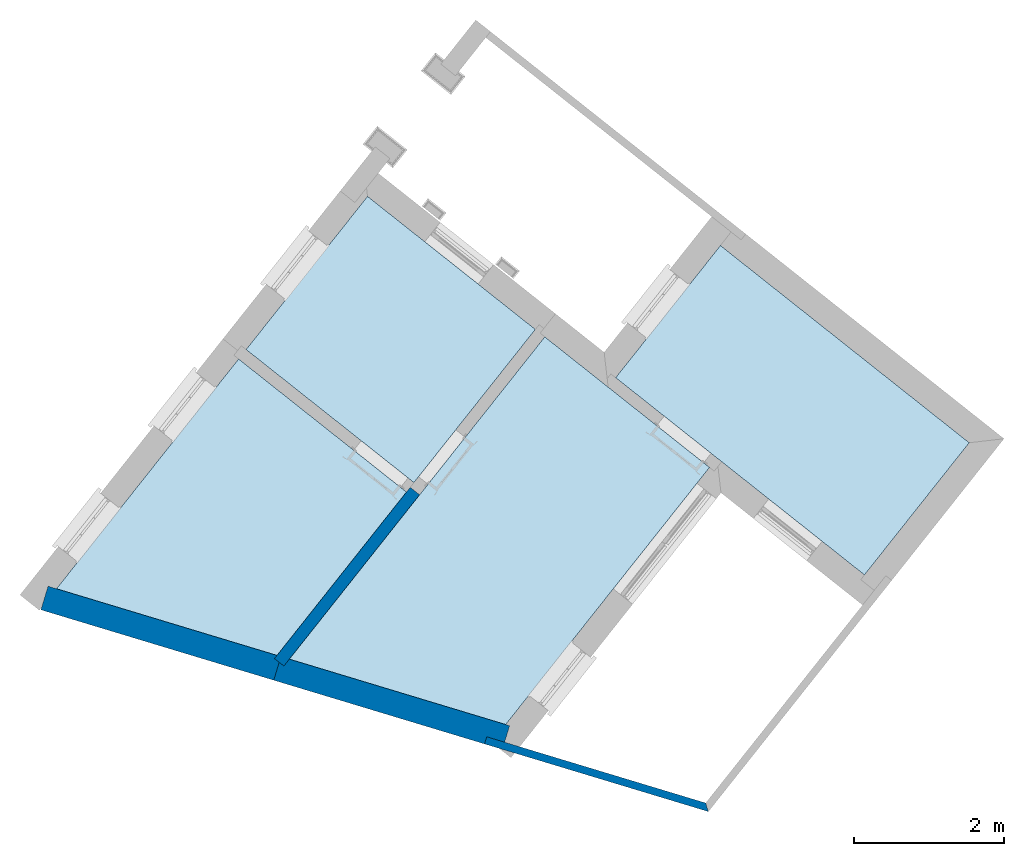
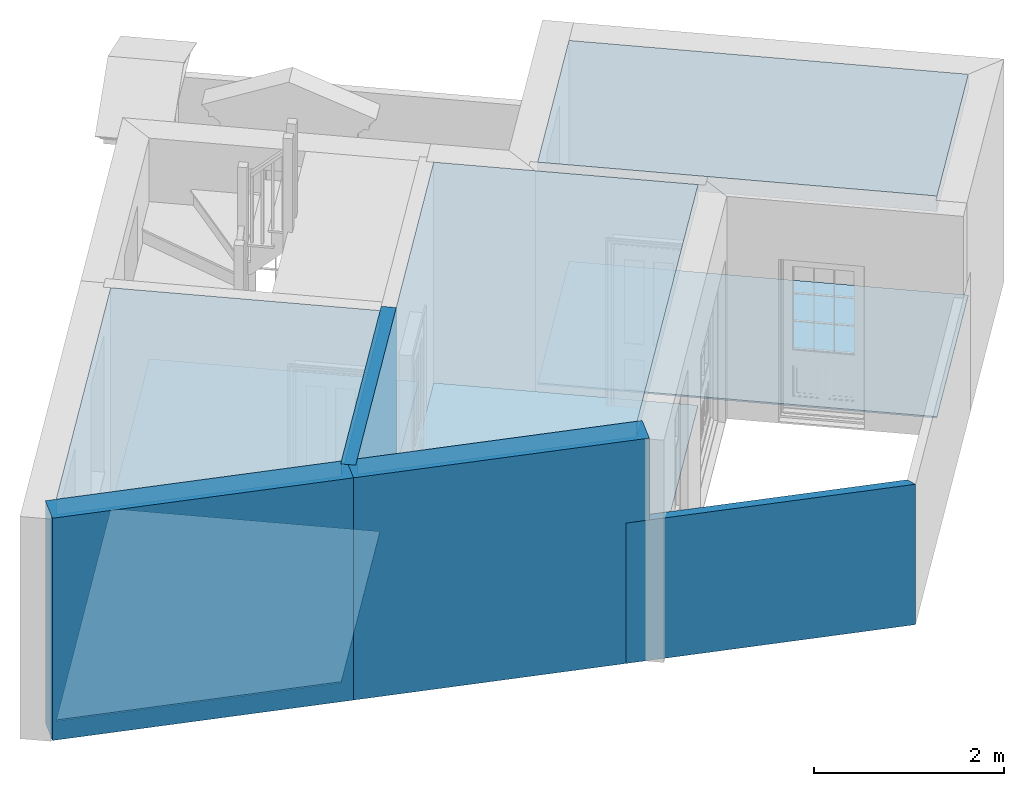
# One storey, part 1 of 8: 7 slabs, 4 walls.
"""IFC4 building model written with IfcOpenShell, lengths in metres."""

import ifcopenshell
import ifcopenshell.guid

model = None  # the IFC model being written
_history = None  # IfcOwnerHistory: only IFC2X3 demands one
_inside = {}  # id of a spatial element -> (the spatial element, [elements in it])
_under = {}  # id of a project, library or spatial element -> (it, [spatial elements below it])
_declared = {}  # id of a project -> (the project, [libraries it declares])
_typed = {}  # id of a type object -> (the type object, [elements of that type])
_made_of = {}  # id of a material, layer set ... -> (it, [elements and type objects made of it])


def new_model(schema):
    """Start an empty IFC model of exactly this schema.

    Asked for "IFC4X3", IfcOpenShell would pick the latest addendum, in which some entities
    have other attributes; the version numbers below select the first issue.
    IFC2X3 requires an IfcOwnerHistory on every rooted entity: one is made here for all.
    """
    global model, _history
    if schema == "IFC4X3":
        model = ifcopenshell.file(schema_version=(4, 3, 0, 0))
    else:
        model = ifcopenshell.file(schema=schema)
    _inside.clear()
    _under.clear()
    _declared.clear()
    _typed.clear()
    _made_of.clear()
    _history = None
    if model.schema == "IFC2X3":
        org = make("IfcOrganization", Name="unknown")
        user = make(
            "IfcPersonAndOrganization",
            ThePerson=make("IfcPerson", FamilyName="unknown"),
            TheOrganization=org,
        )
        app = make(
            "IfcApplication",
            ApplicationDeveloper=org,
            Version="unknown",
            ApplicationFullName="unknown",
            ApplicationIdentifier="unknown",
        )
        _history = make(
            "IfcOwnerHistory",
            OwningUser=user,
            OwningApplication=app,
            ChangeAction="ADDED",
            CreationDate=0,
        )
    return model


def make(cls, **values):
    """One entity of the class cls with the attributes given. An attribute that is None is left unset."""
    return model.create_entity(
        cls, **{name: value for name, value in values.items() if value is not None}
    )


def rooted(cls, **values):
    """An entity with a GlobalId (a new one), such as an element, a storey or a relation."""
    return make(cls, GlobalId=ifcopenshell.guid.new(), OwnerHistory=_history, **values)


def si_unit(unit_type, name, prefix=None):
    """IfcSIUnit, for example si_unit("LENGTHUNIT", "METRE", prefix="MILLI")."""
    return make("IfcSIUnit", UnitType=unit_type, Prefix=prefix, Name=name)


def assignment(units):
    """IfcUnitAssignment: the units of a project."""
    return None if units is None else make("IfcUnitAssignment", Units=units)


def point(xyz):
    """IfcCartesianPoint."""
    return None if xyz is None else make("IfcCartesianPoint", Coordinates=xyz)


def direction(xyz):
    """IfcDirection."""
    return None if xyz is None else make("IfcDirection", DirectionRatios=xyz)


def frame(location, z_axis=None, x_axis=None):
    """IfcAxis2Placement3D, a coordinate frame: its origin and axes. An axis left out is left unset."""
    return make(
        "IfcAxis2Placement3D",
        Location=point(location),
        Axis=direction(z_axis),
        RefDirection=direction(x_axis),
    )


def origin_with_axes():
    """The frame at (0, 0, 0) with the z axis (0, 0, 1) and the x axis (1, 0, 0) written out."""
    return frame((0.0, 0.0, 0.0), z_axis=(0.0, 0.0, 1.0), x_axis=(1.0, 0.0, 0.0))


def place(relative_to, where):
    """IfcLocalPlacement: puts the frame where relative to a parent placement (None: the world)."""
    return make(
        "IfcLocalPlacement", PlacementRelTo=relative_to, RelativePlacement=where
    )


def context(
    kind, dimensions, precision=None, world=None, true_north=None, identifier=None
):
    """IfcGeometricRepresentationContext, for example the 3D "Model" context."""
    return make(
        "IfcGeometricRepresentationContext",
        ContextIdentifier=identifier,
        ContextType=kind,
        CoordinateSpaceDimension=dimensions,
        Precision=precision,
        WorldCoordinateSystem=world,
        TrueNorth=true_north,
    )


def subcontext(parent, identifier, kind, view, scale=None):
    """IfcGeometricRepresentationSubContext, for example "Body" below "Model"."""
    return make(
        "IfcGeometricRepresentationSubContext",
        ContextIdentifier=identifier,
        ContextType=kind,
        ParentContext=parent,
        TargetScale=scale,
        TargetView=view,
    )


def project(units=None, contexts=None):
    """IfcProject with its units and contexts."""
    return rooted(
        "IfcProject",
        Name="project",
        RepresentationContexts=contexts,
        UnitsInContext=assignment(units),
    )


def spatial(cls, under=None, at=None, **own):
    """A site, building, storey or space (cls), placed at a placement, below another one or the project."""
    s = rooted(cls, ObjectPlacement=at, **own)
    if under is not None:
        _under.setdefault(under.id(), (under, []))[1].append(s)
    return s


def polyline(points):
    """IfcPolyline through the points."""
    return make("IfcPolyline", Points=[point(p) for p in points])


def outline(outer, holes=None, kind="AREA"):
    """IfcArbitraryClosedProfileDef: a profile drawn as a closed curve; with holes, ...WithVoids."""
    if holes is None:
        return make("IfcArbitraryClosedProfileDef", ProfileType=kind, OuterCurve=outer)
    return make(
        "IfcArbitraryProfileDefWithVoids",
        ProfileType=kind,
        OuterCurve=outer,
        InnerCurves=holes,
    )


def extrude(swept, where, along, depth):
    """IfcExtrudedAreaSolid: the profile swept, set in the frame where, extruded along a direction by depth."""
    return make(
        "IfcExtrudedAreaSolid",
        SweptArea=swept,
        Position=where,
        ExtrudedDirection=direction(along),
        Depth=depth,
    )


def shape(context_of_items, identifier, shape_type, items):
    """IfcShapeRepresentation: the items that make up one representation, for example the "Body"."""
    return make(
        "IfcShapeRepresentation",
        ContextOfItems=context_of_items,
        RepresentationIdentifier=identifier,
        RepresentationType=shape_type,
        Items=items,
    )


def material(Name=None, Category=None):
    """IfcMaterial."""
    return make("IfcMaterial", Name=Name, Category=Category)


def layer(
    of_material, thickness, ventilated=None, Name=None, Category=None, Priority=None
):
    """IfcMaterialLayer: one layer of a wall or slab, of a material (None: an air gap)."""
    return make(
        "IfcMaterialLayer",
        Material=of_material,
        LayerThickness=thickness,
        IsVentilated=ventilated,
        Name=Name,
        Category=Category,
        Priority=Priority,
    )


def layer_set(layers, Name=None):
    """IfcMaterialLayerSet."""
    return make("IfcMaterialLayerSet", MaterialLayers=layers, LayerSetName=Name)


def layer_usage(for_layer_set, set_direction, sense, offset, extent=None):
    """IfcMaterialLayerSetUsage: how a layer set lies in its element."""
    return make(
        "IfcMaterialLayerSetUsage",
        ForLayerSet=for_layer_set,
        LayerSetDirection=set_direction,
        DirectionSense=sense,
        OffsetFromReferenceLine=offset,
        ReferenceExtent=extent,
    )


def made_of(thing, what):
    """Note that an element or type object is made of a material, layer set ...; save() writes the relation."""
    if what is not None:
        _made_of.setdefault(what.id(), (what, []))[1].append(thing)
    return thing


def type_object(cls, material=None, **own):
    """A type object (cls), such as IfcWallType, which elements share."""
    return made_of(rooted(cls, **own), material)


def element(
    cls,
    number,
    at=None,
    inside=None,
    cuts=None,
    type_object=None,
    material=None,
    context=None,
    identifier="Body",
    shape_type=None,
    held_by="IfcProductDefinitionShape",
    body=None,
    shapes=None,
    **own,
):
    """One element of the class cls, such as IfcWall. Its Tag is "e" and its number.

    at: its placement. inside: the storey or other place that contains it. cuts: it is an
    opening in that element (IfcRelVoidsElement). A single representation is given by context,
    identifier, shape_type and body (its items); several are given by shapes. held_by: the class
    of the entity that holds the representations. save() writes the other relations.
    """
    e = rooted(cls, Tag="e%d" % number, ObjectPlacement=at, **own)
    if body is not None:
        shapes = [shape(context, identifier, shape_type, body)]
    if shapes is not None:
        e.Representation = make(held_by, Representations=shapes)
    if inside is not None:
        _inside.setdefault(inside.id(), (inside, []))[1].append(e)
    if cuts is not None:
        rooted(
            "IfcRelVoidsElement", RelatingBuildingElement=cuts, RelatedOpeningElement=e
        )
    if type_object is not None:
        _typed.setdefault(type_object.id(), (type_object, []))[1].append(e)
    return made_of(e, material)


def aggregate(whole, parts):
    """IfcRelAggregates: a whole, such as a stair, and the parts it consists of."""
    return rooted("IfcRelAggregates", RelatingObject=whole, RelatedObjects=parts)


def save(model, path):
    """Write the relations noted so far, then the file.

    IfcRelAggregates (storeys below a building ...), IfcRelContainedInSpatialStructure (elements
    in a storey), IfcRelDefinesByType, IfcRelAssociatesMaterial and IfcRelDeclares: one each for
    every whole, place, type object, material and project.
    """
    for whole, parts in _under.values():
        aggregate(whole, parts)
    for where, things in _inside.values():
        rooted(
            "IfcRelContainedInSpatialStructure",
            RelatedElements=things,
            RelatingStructure=where,
        )
    for kind, things in _typed.values():
        rooted("IfcRelDefinesByType", RelatedObjects=things, RelatingType=kind)
    for what, things in _made_of.values():
        rooted("IfcRelAssociatesMaterial", RelatedObjects=things, RelatingMaterial=what)
    for by, libraries in _declared.values():
        rooted("IfcRelDeclares", RelatingContext=by, RelatedDefinitions=libraries)
    model.write(path)


model = new_model("IFC4")

# Units and contexts
model_context = context("Model", 3, world=origin_with_axes())
body_context = subcontext(model_context, "Body", "Model", "MODEL_VIEW")
ifc_project = project(units=[si_unit("PLANEANGLEUNIT", "RADIAN"), si_unit("MASSUNIT", "GRAM", prefix="KILO"), si_unit("FORCEUNIT", "NEWTON", prefix="KILO"), si_unit("LENGTHUNIT", "METRE"), si_unit("AREAUNIT", "SQUARE_METRE"), si_unit("VOLUMEUNIT", "CUBIC_METRE")], contexts=[model_context, model_context])

# Sites, building, storey
site_1_placement = place(None, origin_with_axes())
site_1 = spatial("IfcSite", under=ifc_project, at=site_1_placement, Name="Tamar")
site_2_placement = place(site_1_placement, origin_with_axes())
site_2 = spatial("IfcSite", under=site_1, at=site_2_placement, Name="Site plot-5", CompositionType="ELEMENT")
building_placement = place(None, origin_with_axes())
building = spatial("IfcBuilding", under=site_2, at=building_placement, Name="Building plot-5", CompositionType="ELEMENT")
storey_placement = place(None, frame((0.0, 0.0, 24.0), z_axis=(0.0, 0.0, 1.0), x_axis=(1.0, 0.0, 0.0)))
storey = spatial("IfcBuildingStorey", under=building, at=storey_placement, Name="plot-5 0", CompositionType="ELEMENT", Elevation=24.0)

# Slabs
slab_1_placement = place(storey_placement, frame((234.095933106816, 273.820512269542, 2.65)))
element("IfcSlab", 1, at=slab_1_placement, inside=storey, Name="My Slab", ObjectType="Slab", PredefinedType="FLOOR", context=body_context, shape_type="SweptSolid", body=[
    extrude(outline(polyline([(0.0, 0.0), (-2.19956581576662, 1.74355826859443), (-5.61034124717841, -2.55926612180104), (-2.72103821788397, -3.43269436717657), (0.0, 0.0)])), origin_with_axes(), (0.0, 0.0, 1.0), 0.2),
])
slab_2_placement = place(storey_placement, frame((234.095933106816, 273.820512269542, 0.0)))
element("IfcSlab", 2, at=slab_2_placement, inside=storey, Name="My Slab", ObjectType="Slab", PredefinedType="FLOOR", context=body_context, shape_type="SweptSolid", body=[
    extrude(outline(polyline([(0.0, 0.0), (-2.19956581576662, 1.74355826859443), (-5.61034124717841, -2.55926612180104), (-2.72103821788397, -3.43269436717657), (0.0, 0.0)])), origin_with_axes(), (0.0, 0.0, 1.0), 0.02),
])
slab_3_placement = place(storey_placement, frame((229.529471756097, 277.440268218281, 0.0)))
element("IfcSlab", 3, at=slab_3_placement, inside=storey, Name="My Slab", ObjectType="Slab", PredefinedType="FLOOR", context=body_context, shape_type="SweptSolid", body=[
    extrude(outline(polyline([(0.0, 0.0), (-1.62173936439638, -2.04588658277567), (0.619770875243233, -3.82269348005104), (2.24151023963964, -1.77680689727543), (0.0, 0.0)])), origin_with_axes(), (0.0, 0.0, 1.0), 0.02),
])
slab_4_placement = place(storey_placement, frame((227.808341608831, 275.268996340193, 2.65)))
element("IfcSlab", 4, at=slab_4_placement, inside=storey, Name="My Slab", ObjectType="Slab", PredefinedType="FLOOR", context=body_context, shape_type="SweptSolid", body=[
    extrude(outline(polyline([(0.0, 0.0), (-2.43185355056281, -3.06787678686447), (0.512546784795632, -3.95796079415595), (2.24151023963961, -1.77680689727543), (0.0, 0.0)])), origin_with_axes(), (0.0, 0.0, 1.0), 0.2),
])
slab_5_placement = place(storey_placement, frame((227.808341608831, 275.268996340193, 0.0)))
element("IfcSlab", 5, at=slab_5_placement, inside=storey, Name="My Slab", ObjectType="Slab", PredefinedType="FLOOR", context=body_context, shape_type="SweptSolid", body=[
    extrude(outline(polyline([(0.0, 0.0), (-2.43185355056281, -3.06787678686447), (0.512546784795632, -3.95796079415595), (2.24151023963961, -1.77680689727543), (0.0, 0.0)])), origin_with_axes(), (0.0, 0.0, 1.0), 0.02),
])
slab_6_placement = place(storey_placement, frame((232.841934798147, 275.018705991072, 2.65)))
element("IfcSlab", 6, at=slab_6_placement, inside=storey, Name="My Slab", ObjectType="Slab", PredefinedType="FLOOR", context=body_context, shape_type="SweptSolid", body=[
    extrude(outline(polyline([(0.0, 0.0), (3.32263625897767, -2.63379703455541), (4.72195640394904, -0.868500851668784), (1.39932014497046, 1.76529618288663), (0.0, 0.0)])), origin_with_axes(), (0.0, 0.0, 1.0), 0.2),
])
slab_7_placement = place(storey_placement, frame((232.841934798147, 275.018705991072, 0.0)))
element("IfcSlab", 7, at=slab_7_placement, inside=storey, Name="My Slab", ObjectType="Slab", PredefinedType="FLOOR", context=body_context, shape_type="SweptSolid", body=[
    extrude(outline(polyline([(0.0, 0.0), (3.32263625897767, -2.63379703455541), (4.72195640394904, -0.868500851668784), (1.39932014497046, 1.76529618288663), (0.0, 0.0)])), origin_with_axes(), (0.0, 0.0, 1.0), 0.02),
])

# Walls
ifc_material_1 = material(Name="Masonry")
ifc_layer_1 = layer(ifc_material_1, 0.33, ventilated=False)
ifc_layer_set_1 = layer_set([ifc_layer_1], Name="party_0.08_0.25")
ifc_layer_usage_1 = layer_usage(ifc_layer_set_1, "AXIS2", "POSITIVE", -0.25)
wall_type_1 = type_object("IfcWallType", Name="party_0.08_0.25", PredefinedType="SOLIDWALL", material=ifc_layer_set_1)
wall_1_placement = place(storey_placement, frame((225.240693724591, 272.158594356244, 0.0), z_axis=(0.0, 0.0, 1.0), x_axis=(0.95721894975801, -0.289364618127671, 0.0)))
element("IfcWall", 8, at=wall_1_placement, inside=storey, type_object=wall_type_1, material=ifc_layer_usage_1, Name="party", context=body_context, shape_type="SweptSolid", body=[
    extrude(outline(polyline([(1.65691044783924e-15, 0.08000000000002), (-6.04112858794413e-15, -0.250000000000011), (3.24805918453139, -0.25000000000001), (3.2480591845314, 0.08000000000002), (1.65691044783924e-15, 0.08000000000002)])), origin_with_axes(), (0.0, 0.0, 1.0), 2.85),
])
wall_2_placement = place(storey_placement, frame((228.34979752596, 271.218720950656, 0.0), z_axis=(0.0, 0.0, 1.0), x_axis=(0.957218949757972, -0.289364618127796, 0.0)))
element("IfcWall", 9, at=wall_2_placement, inside=storey, type_object=wall_type_1, material=ifc_layer_usage_1, Name="party", context=body_context, shape_type="SweptSolid", body=[
    extrude(outline(polyline([(-8.75254063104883e-15, 0.08000000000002), (2.65994283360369e-14, -0.250000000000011), (3.19049941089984, -0.250000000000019), (3.19049941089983, 0.08000000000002), (-8.75254063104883e-15, 0.08000000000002)])), origin_with_axes(), (0.0, 0.0, 1.0), 2.85),
])
ifc_material_2 = material(Name="Masonry")
ifc_layer_2 = layer(ifc_material_2, 0.16, ventilated=False)
ifc_layer_set_2 = layer_set([ifc_layer_2], Name="interior_0.08_0.08")
ifc_layer_usage_2 = layer_usage(ifc_layer_set_2, "AXIS2", "POSITIVE", -0.08)
wall_type_2 = type_object("IfcWallType", Name="interior_0.08_0.08", PredefinedType="SOLIDWALL", material=ifc_layer_set_2)
wall_3_placement = place(storey_placement, frame((230.162239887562, 273.505186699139, 0.0), z_axis=(0.0, 0.0, 1.0), x_axis=(-0.621192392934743, -0.783658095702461, 0.0)))
element("IfcWall", 10, at=wall_3_placement, inside=storey, type_object=wall_type_2, material=ifc_layer_usage_2, Name="interior", context=body_context, shape_type="SweptSolid", body=[
    extrude(outline(polyline([(6.80651450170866e-15, 0.0800000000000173), (-6.78078453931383e-15, -0.0800000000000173), (2.91768280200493, -0.080000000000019), (2.91768280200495, 0.0800000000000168), (6.80651450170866e-15, 0.0800000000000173)])), origin_with_axes(), (0.0, 0.0, 1.0), 2.85),
])
ifc_material_3 = material(Name="Masonry")
ifc_layer_3 = layer(ifc_material_3, 0.1, ventilated=False)
ifc_layer_set_3 = layer_set([ifc_layer_3], Name="fence_-0.15_0.25")
ifc_layer_usage_3 = layer_usage(ifc_layer_set_3, "AXIS2", "POSITIVE", -0.25)
wall_type_3 = type_object("IfcWallType", Name="fence_-0.15_0.25", PredefinedType="SOLIDWALL", material=ifc_layer_set_3)
wall_4_placement = place(storey_placement, frame((231.403804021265, 270.295503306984, 0.0), z_axis=(0.0, 0.0, 1.0), x_axis=(0.957218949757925, -0.289364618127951, 0.0)))
element("IfcWall", 11, at=wall_4_placement, inside=storey, type_object=wall_type_3, material=ifc_layer_usage_3, Name="fence", context=body_context, shape_type="SweptSolid", body=[
    extrude(outline(polyline([(-0.25, -0.149999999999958), (-0.250000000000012, -0.24999999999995), (2.87232459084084, -0.249999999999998), (2.80434340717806, -0.150000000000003), (-0.25, -0.149999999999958)])), origin_with_axes(), (0.0, 0.0, 1.0), 1.8),
])

save(model, "model.ifc")
